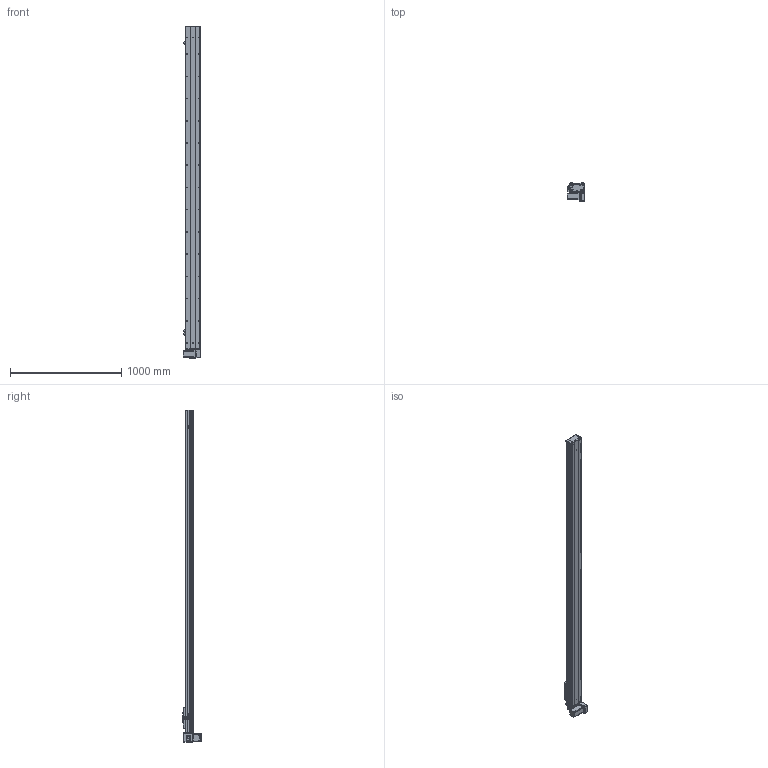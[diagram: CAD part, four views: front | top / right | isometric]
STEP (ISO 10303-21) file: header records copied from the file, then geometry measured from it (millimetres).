
FILE_DESCRIPTION (( 'STEP AP203' ), '1' );
FILE_NAME ('Y135CB-D90-S2600-BM-P400W.STEP', '2020-02-19T02:31:25', ( '微软用户' ), ( '微软中国' ), 'SwSTEP 2.0', 'SolidWorks 2017', '' );
FILE_SCHEMA (( 'CONFIG_CONTROL_DESIGN' ));
Length unit declared in the file: millimetre
Products named in the file (18): 0B-萇儂楊擘啣; Y10B--々湍喘謫眊--666; san松下电机400不带刹车----; 00B-俋欶BM--; 5CB --掛极耜裔啣-; Y10B-耜蚾蟀諉啣----; C-詩湍揤踡え-陔; Y135CB-耜裔; Y135CB-D90-S2600-BM-P400W; 135CB--詩湍-CE; 135CB---遴掛极.-; Y100-135俋离換覜ん--; 35CB---喘謫眊楊擘啣; Y135C-陔俋离換覜結え-; 0B-埴倛裔啣; 5C--俋欶; 0B-源倛裔啣; C-雄赽釱--
Assembly tree (21 placements, depth 2):
  Y135CB-D90-S2600-BM-P400W
    Y135CB-耜裔
    135CB---遴掛极.-
    35CB---喘謫眊楊擘啣
    0B-埴倛裔啣
    0B-源倛裔啣
    0B-萇儂楊擘啣
    san松下电机400不带刹车----
    5CB --掛极耜裔啣-  x2
    C-詩湍揤踡え-陔  x2
    135CB--詩湍-CE
    Y100-135俋离換覜ん--  x3
    Y135C-陔俋离換覜結え-
    5C--俋欶
    C-雄赽釱--
    Y10B--々湍喘謫眊--666
    00B-俋欶BM--
    Y10B-耜蚾蟀諉啣----
Bounding box: 157 x 163.3 x 2988 mm (x, y, z)
Volume: 8541510.7 mm3; surface area: 3384255.6 mm2
Topology: 21 solids, 21 shells, 977 faces, 2671 edges, 1770 vertices
Faces by surface type: cylinder 505, plane 456, cone 16
Entity records: 30965 total; most frequent: CARTESIAN_POINT 5164, DIRECTION 5147, ORIENTED_EDGE 4818, EDGE_CURVE 2409, AXIS2_PLACEMENT_3D 1889, VERTEX_POINT 1598, LINE 1369, VECTOR 1369
